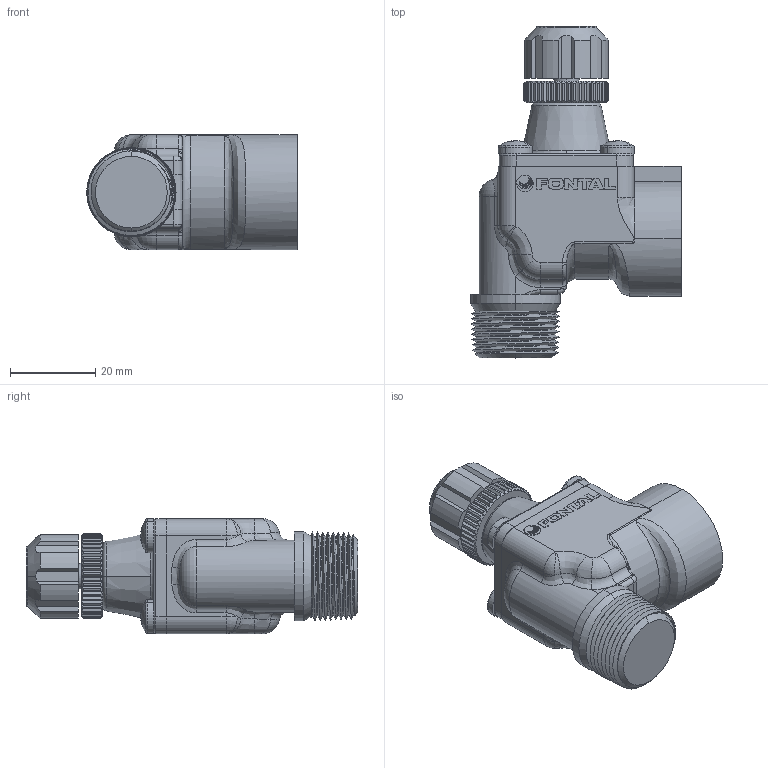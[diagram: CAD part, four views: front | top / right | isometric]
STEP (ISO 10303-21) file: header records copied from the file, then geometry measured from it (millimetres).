
FILE_DESCRIPTION (( 'STEP AP203' ), '1' );
FILE_NAME ('SPE-10-34.STEP', '2016-01-14T20:17:25', ( '' ), ( '' ), 'SwSTEP 2.0', 'SolidWorks 2014', '' );
FILE_SCHEMA (( 'CONFIG_CONTROL_DESIGN' ));
Length unit declared in the file: millimetre
Products named in the file (8): ZH-10-MARK; SP-06-6; SPE-10-3; SPE-10-1-2; SPE-10-34; ISO 7045 - M4 x 10 - Z; SPE-10-2; SPE-10-4
Assembly tree (10 placements, depth 2):
  SPE-10-34
    SPE-10-2
    SPE-10-3
    SPE-10-4
    SP-06-6
    ISO 7045 - M4 x 10 - Z  x4
    SPE-10-1-2
    ZH-10-MARK
Bounding box: 49.5 x 78 x 27.11 mm (x, y, z)
Volume: 42565.3 mm3; surface area: 14628.6 mm2
Topology: 16 solids, 16 shells, 676 faces, 1620 edges, 969 vertices
Faces by surface type: plane 295, cone 150, cylinder 139, bspline 43, torus 39, sphere 10
Entity records: 23038 total; most frequent: CARTESIAN_POINT 9413, ORIENTED_EDGE 2720, DIRECTION 2574, EDGE_CURVE 1360, AXIS2_PLACEMENT_3D 1020, VERTEX_POINT 816, EDGE_LOOP 594, ADVANCED_FACE 574
